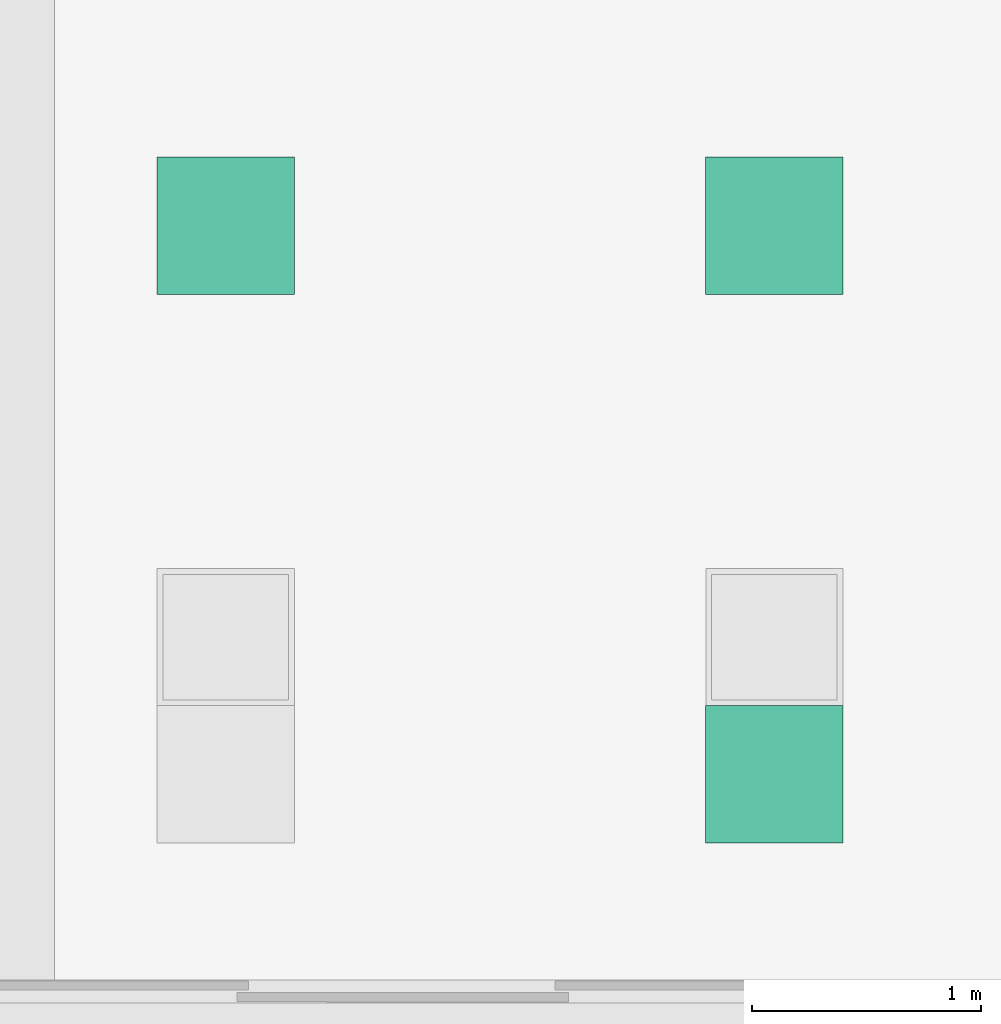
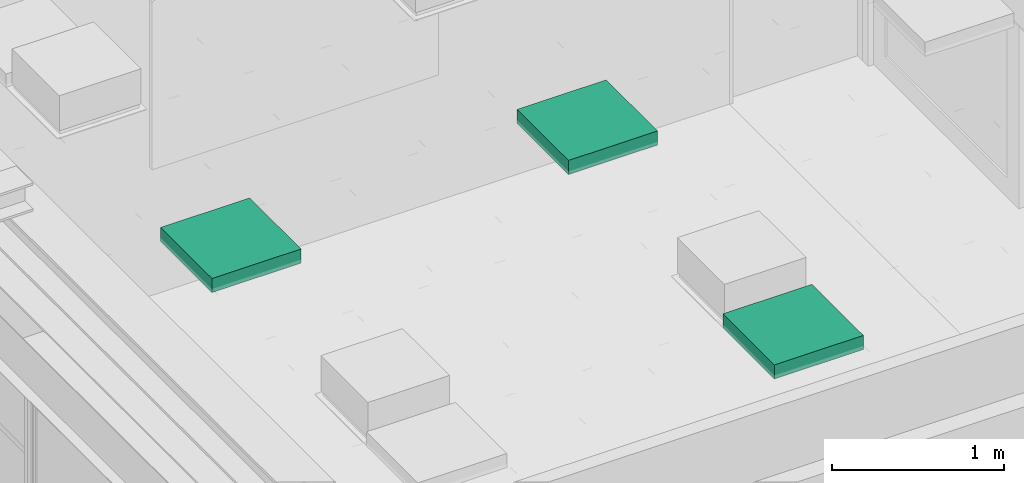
# One storey, part 218 of 347: 3 flow terminals.
"""IFC2X3 building model written with IfcOpenShell, lengths in millimetres."""

from ifc_helpers import new_model, entity, si_unit, converted_unit, derived_unit, money_unit, direction, frame, origin_with_axes, place, context, subcontext, project, spatial, open_shell, faceted_brep, surface_model, source, transform, mapped, type_object, type_shapes, element, save


model = new_model("IFC2X3")

# Units and contexts
model_context = context("Model", 3, precision=0.01, world=origin_with_axes(), true_north=direction((0.0, 1.0)))
plan_context = context("Plan", 3, precision=0.01, world=origin_with_axes(), true_north=direction((0.0, 1.0)))
body_context = subcontext(model_context, "Body", "Model", "MODEL_VIEW")
ifc_project = project(units=[si_unit("LENGTHUNIT", "METRE", prefix="MILLI"), si_unit("AREAUNIT", "SQUARE_METRE"), si_unit("VOLUMEUNIT", "CUBIC_METRE"), converted_unit("PLANEANGLEUNIT", "DEGREE", entity("IfcPlaneAngleMeasure", 0.0174532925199), si_unit("PLANEANGLEUNIT", "RADIAN"), dimensions=[0, 0, 0, 0, 0, 0, 0]), money_unit("EUR"), converted_unit("TIMEUNIT", "Year", entity("IfcTimeMeasure", 31556926.0), si_unit("TIMEUNIT", "SECOND"), dimensions=[0, 0, 1, 0, 0, 0, 0]), si_unit("MASSUNIT", "GRAM", prefix="KILO"), si_unit("THERMODYNAMICTEMPERATUREUNIT", "DEGREE_CELSIUS"), si_unit("LUMINOUSINTENSITYUNIT", "LUMEN"), si_unit("ENERGYUNIT", "JOULE", prefix="MEGA"), derived_unit("THERMALCONDUCTANCEUNIT", [(si_unit("POWERUNIT", "WATT"), 1), (si_unit("LENGTHUNIT", "METRE"), -1), (si_unit("THERMODYNAMICTEMPERATUREUNIT", "KELVIN"), -1)]), derived_unit("SPECIFICHEATCAPACITYUNIT", [(si_unit("ENERGYUNIT", "JOULE"), 1), (si_unit("MASSUNIT", "GRAM", prefix="KILO"), -1), (si_unit("THERMODYNAMICTEMPERATUREUNIT", "KELVIN"), -1)]), derived_unit("MASSDENSITYUNIT", [(si_unit("MASSUNIT", "GRAM", prefix="KILO"), 1), (si_unit("VOLUMEUNIT", "CUBIC_METRE"), -1)])], contexts=[model_context, plan_context])

# Site, building, storey
site_placement = place(None, origin_with_axes())
site = spatial("IfcSite", under=ifc_project, at=site_placement, Name="Site", CompositionType="ELEMENT")
building_placement = place(site_placement, origin_with_axes())
building = spatial("IfcBuilding", under=site, at=building_placement, Name="Naam gebouw", CompositionType="ELEMENT")
storey_placement = place(building_placement, origin_with_axes())
storey = spatial("IfcBuildingStorey", under=building, at=storey_placement, Name="begane grond", CompositionType="ELEMENT", Elevation=0.0)

# Flow terminals
lamp_type = type_object("IfcLampType", Name="TL plafond 25", PredefinedType="NOTDEFINED")
shared_shape = source(origin_with_axes(), body_context, "Body", "SurfaceModel", [
    faceted_brep([(0.0, 0.0, -100.0), (600.0, 0.0, -100.0), (600.0, 0.0, 0.0), (0.0, 0.0, 0.0), (0.0, 600.0, -100.0), (600.0, 600.0, -100.0), (40.0, 40.0, -100.0), (560.0, 40.0, -100.0), (560.0, 560.0, -100.0), (40.0, 560.0, -100.0), (600.0, 600.0, 0.0), (0.0, 600.0, 0.0), (40.0, 40.0, 0.0), (40.0, 560.0, 0.0), (560.0, 560.0, 0.0), (560.0, 40.0, 0.0)], [[[0, 1, 2, 3]], [[0, 4, 5, 1], [6, 7, 8, 9]], [[1, 5, 10, 2]], [[3, 2, 10, 11], [12, 13, 14, 15]], [[4, 0, 3, 11]], [[5, 4, 11, 10]], [[7, 6, 12, 15]], [[8, 7, 15, 14]], [[9, 8, 14, 13]], [[6, 9, 13, 12]]]),
    faceted_brep([(40.0, 40.0, -16.3333333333), (560.0, 40.0, -16.3333333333), (560.0, 40.0, 0.0), (40.0, 40.0, 0.0), (40.0, 560.0, -16.3333333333), (560.0, 560.0, -16.3333333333), (560.0, 560.0, 0.0), (40.0, 560.0, 0.0)], [[[0, 1, 2, 3]], [[0, 4, 5, 1]], [[1, 5, 6, 2]], [[3, 2, 6, 7]], [[4, 0, 3, 7]], [[5, 4, 7, 6]]]),
    surface_model("IfcShellBasedSurfaceModel", [(559.0, 41.0, -100.0), (40.0, 41.0, -100.0), (40.0, 559.0, -100.0), (559.0, 559.0, -100.0)], [open_shell([[[0, 1, 2, 3]]])]),
    faceted_brep([(40.0, 40.0, -100.0), (560.0, 40.0, -100.0), (560.0, 40.0, -60.0), (40.0, 40.0, -60.0), (40.0, 560.0, -100.0), (560.0, 560.0, -100.0), (41.0, 41.0, -100.0), (559.0, 41.0, -100.0), (559.0, 559.0, -100.0), (41.0, 559.0, -100.0), (560.0, 560.0, -60.0), (40.0, 560.0, -60.0), (41.0, 41.0, -60.0), (41.0, 559.0, -60.0), (559.0, 559.0, -60.0), (559.0, 41.0, -60.0)], [[[0, 1, 2, 3]], [[0, 4, 5, 1], [6, 7, 8, 9]], [[1, 5, 10, 2]], [[3, 2, 10, 11], [12, 13, 14, 15]], [[4, 0, 3, 11]], [[5, 4, 11, 10]], [[7, 6, 12, 15]], [[8, 7, 15, 14]], [[9, 8, 14, 13]], [[6, 9, 13, 12]]]),
    faceted_brep([(40.0, 144.0, -48.3333333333), (40.0, 149.740251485, -47.191526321), (560.0, 149.740251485, -47.191526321), (560.0, 144.0, -48.3333333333), (40.0, 138.259748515, -47.191526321), (40.0, 133.393398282, -43.9399350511), (40.0, 130.141807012, -39.0735848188), (40.0, 129.0, -33.3333333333), (40.0, 130.141807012, -27.5930818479), (40.0, 133.393398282, -22.7267316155), (40.0, 138.259748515, -19.4751403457), (40.0, 144.0, -18.3333333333), (40.0, 149.740251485, -19.4751403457), (40.0, 154.606601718, -22.7267316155), (40.0, 157.858192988, -27.5930818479), (40.0, 159.0, -33.3333333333), (40.0, 157.858192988, -39.0735848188), (40.0, 154.606601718, -43.9399350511), (40.0, 144.0, -46.3333333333), (40.0, 148.974884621, -45.343767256), (40.0, 153.192388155, -42.5257214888), (40.0, 156.010433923, -38.3082179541), (40.0, 157.0, -33.3333333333), (40.0, 156.010433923, -28.3584487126), (40.0, 153.192388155, -24.1409451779), (40.0, 148.974884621, -21.3228994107), (40.0, 144.0, -20.3333333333), (40.0, 139.025115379, -21.3228994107), (40.0, 134.807611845, -24.1409451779), (40.0, 131.989566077, -28.3584487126), (40.0, 131.0, -33.3333333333), (40.0, 131.989566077, -38.3082179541), (40.0, 134.807611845, -42.5257214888), (40.0, 139.025115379, -45.343767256), (560.0, 154.606601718, -43.9399350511), (560.0, 157.858192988, -39.0735848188), (560.0, 159.0, -33.3333333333), (560.0, 157.858192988, -27.5930818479), (560.0, 154.606601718, -22.7267316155), (560.0, 149.740251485, -19.4751403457), (560.0, 144.0, -18.3333333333), (560.0, 138.259748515, -19.4751403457), (560.0, 133.393398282, -22.7267316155), (560.0, 130.141807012, -27.5930818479), (560.0, 129.0, -33.3333333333), (560.0, 130.141807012, -39.0735848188), (560.0, 133.393398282, -43.9399350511), (560.0, 138.259748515, -47.191526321), (560.0, 144.0, -46.3333333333), (560.0, 139.025115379, -45.343767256), (560.0, 134.807611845, -42.5257214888), (560.0, 131.989566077, -38.3082179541), (560.0, 131.0, -33.3333333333), (560.0, 131.989566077, -28.3584487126), (560.0, 134.807611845, -24.1409451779), (560.0, 139.025115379, -21.3228994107), (560.0, 144.0, -20.3333333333), (560.0, 148.974884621, -21.3228994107), (560.0, 153.192388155, -24.1409451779), (560.0, 156.010433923, -28.3584487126), (560.0, 157.0, -33.3333333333), (560.0, 156.010433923, -38.3082179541), (560.0, 153.192388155, -42.5257214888), (560.0, 148.974884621, -45.343767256)], [[[0, 1, 2, 3]], [[0, 4, 5, 6, 7, 8, 9, 10, 11, 12, 13, 14, 15, 16, 17, 1], [18, 19, 20, 21, 22, 23, 24, 25, 26, 27, 28, 29, 30, 31, 32, 33]], [[1, 17, 34, 2]], [[3, 2, 34, 35, 36, 37, 38, 39, 40, 41, 42, 43, 44, 45, 46, 47], [48, 49, 50, 51, 52, 53, 54, 55, 56, 57, 58, 59, 60, 61, 62, 63]], [[4, 0, 3, 47]], [[5, 4, 47, 46]], [[6, 5, 46, 45]], [[7, 6, 45, 44]], [[8, 7, 44, 43]], [[9, 8, 43, 42]], [[10, 9, 42, 41]], [[11, 10, 41, 40]], [[12, 11, 40, 39]], [[13, 12, 39, 38]], [[14, 13, 38, 37]], [[15, 14, 37, 36]], [[16, 15, 36, 35]], [[17, 16, 35, 34]], [[19, 18, 48, 63]], [[20, 19, 63, 62]], [[21, 20, 62, 61]], [[22, 21, 61, 60]], [[23, 22, 60, 59]], [[24, 23, 59, 58]], [[25, 24, 58, 57]], [[26, 25, 57, 56]], [[27, 26, 56, 55]], [[28, 27, 55, 54]], [[29, 28, 54, 53]], [[30, 29, 53, 52]], [[31, 30, 52, 51]], [[32, 31, 51, 50]], [[33, 32, 50, 49]], [[18, 33, 49, 48]]]),
    faceted_brep([(40.0, 248.0, -48.3333333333), (40.0, 253.740251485, -47.191526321), (560.0, 253.740251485, -47.191526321), (560.0, 248.0, -48.3333333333), (40.0, 242.259748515, -47.191526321), (40.0, 237.393398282, -43.9399350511), (40.0, 234.141807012, -39.0735848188), (40.0, 233.0, -33.3333333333), (40.0, 234.141807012, -27.5930818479), (40.0, 237.393398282, -22.7267316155), (40.0, 242.259748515, -19.4751403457), (40.0, 248.0, -18.3333333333), (40.0, 253.740251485, -19.4751403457), (40.0, 258.606601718, -22.7267316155), (40.0, 261.858192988, -27.5930818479), (40.0, 263.0, -33.3333333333), (40.0, 261.858192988, -39.0735848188), (40.0, 258.606601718, -43.9399350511), (40.0, 248.0, -46.3333333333), (40.0, 252.974884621, -45.343767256), (40.0, 257.192388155, -42.5257214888), (40.0, 260.010433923, -38.3082179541), (40.0, 261.0, -33.3333333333), (40.0, 260.010433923, -28.3584487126), (40.0, 257.192388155, -24.1409451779), (40.0, 252.974884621, -21.3228994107), (40.0, 248.0, -20.3333333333), (40.0, 243.025115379, -21.3228994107), (40.0, 238.807611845, -24.1409451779), (40.0, 235.989566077, -28.3584487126), (40.0, 235.0, -33.3333333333), (40.0, 235.989566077, -38.3082179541), (40.0, 238.807611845, -42.5257214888), (40.0, 243.025115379, -45.343767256), (560.0, 258.606601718, -43.9399350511), (560.0, 261.858192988, -39.0735848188), (560.0, 263.0, -33.3333333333), (560.0, 261.858192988, -27.5930818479), (560.0, 258.606601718, -22.7267316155), (560.0, 253.740251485, -19.4751403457), (560.0, 248.0, -18.3333333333), (560.0, 242.259748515, -19.4751403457), (560.0, 237.393398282, -22.7267316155), (560.0, 234.141807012, -27.5930818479), (560.0, 233.0, -33.3333333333), (560.0, 234.141807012, -39.0735848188), (560.0, 237.393398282, -43.9399350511), (560.0, 242.259748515, -47.191526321), (560.0, 248.0, -46.3333333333), (560.0, 243.025115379, -45.343767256), (560.0, 238.807611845, -42.5257214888), (560.0, 235.989566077, -38.3082179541), (560.0, 235.0, -33.3333333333), (560.0, 235.989566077, -28.3584487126), (560.0, 238.807611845, -24.1409451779), (560.0, 243.025115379, -21.3228994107), (560.0, 248.0, -20.3333333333), (560.0, 252.974884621, -21.3228994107), (560.0, 257.192388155, -24.1409451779), (560.0, 260.010433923, -28.3584487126), (560.0, 261.0, -33.3333333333), (560.0, 260.010433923, -38.3082179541), (560.0, 257.192388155, -42.5257214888), (560.0, 252.974884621, -45.343767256)], [[[0, 1, 2, 3]], [[0, 4, 5, 6, 7, 8, 9, 10, 11, 12, 13, 14, 15, 16, 17, 1], [18, 19, 20, 21, 22, 23, 24, 25, 26, 27, 28, 29, 30, 31, 32, 33]], [[1, 17, 34, 2]], [[3, 2, 34, 35, 36, 37, 38, 39, 40, 41, 42, 43, 44, 45, 46, 47], [48, 49, 50, 51, 52, 53, 54, 55, 56, 57, 58, 59, 60, 61, 62, 63]], [[4, 0, 3, 47]], [[5, 4, 47, 46]], [[6, 5, 46, 45]], [[7, 6, 45, 44]], [[8, 7, 44, 43]], [[9, 8, 43, 42]], [[10, 9, 42, 41]], [[11, 10, 41, 40]], [[12, 11, 40, 39]], [[13, 12, 39, 38]], [[14, 13, 38, 37]], [[15, 14, 37, 36]], [[16, 15, 36, 35]], [[17, 16, 35, 34]], [[19, 18, 48, 63]], [[20, 19, 63, 62]], [[21, 20, 62, 61]], [[22, 21, 61, 60]], [[23, 22, 60, 59]], [[24, 23, 59, 58]], [[25, 24, 58, 57]], [[26, 25, 57, 56]], [[27, 26, 56, 55]], [[28, 27, 55, 54]], [[29, 28, 54, 53]], [[30, 29, 53, 52]], [[31, 30, 52, 51]], [[32, 31, 51, 50]], [[33, 32, 50, 49]], [[18, 33, 49, 48]]]),
    faceted_brep([(40.0, 352.0, -48.3333333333), (40.0, 357.740251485, -47.191526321), (560.0, 357.740251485, -47.191526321), (560.0, 352.0, -48.3333333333), (40.0, 346.259748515, -47.191526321), (40.0, 341.393398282, -43.9399350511), (40.0, 338.141807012, -39.0735848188), (40.0, 337.0, -33.3333333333), (40.0, 338.141807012, -27.5930818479), (40.0, 341.393398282, -22.7267316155), (40.0, 346.259748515, -19.4751403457), (40.0, 352.0, -18.3333333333), (40.0, 357.740251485, -19.4751403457), (40.0, 362.606601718, -22.7267316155), (40.0, 365.858192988, -27.5930818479), (40.0, 367.0, -33.3333333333), (40.0, 365.858192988, -39.0735848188), (40.0, 362.606601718, -43.9399350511), (40.0, 352.0, -46.3333333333), (40.0, 356.974884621, -45.343767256), (40.0, 361.192388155, -42.5257214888), (40.0, 364.010433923, -38.3082179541), (40.0, 365.0, -33.3333333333), (40.0, 364.010433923, -28.3584487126), (40.0, 361.192388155, -24.1409451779), (40.0, 356.974884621, -21.3228994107), (40.0, 352.0, -20.3333333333), (40.0, 347.025115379, -21.3228994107), (40.0, 342.807611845, -24.1409451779), (40.0, 339.989566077, -28.3584487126), (40.0, 339.0, -33.3333333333), (40.0, 339.989566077, -38.3082179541), (40.0, 342.807611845, -42.5257214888), (40.0, 347.025115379, -45.343767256), (560.0, 362.606601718, -43.9399350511), (560.0, 365.858192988, -39.0735848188), (560.0, 367.0, -33.3333333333), (560.0, 365.858192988, -27.5930818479), (560.0, 362.606601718, -22.7267316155), (560.0, 357.740251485, -19.4751403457), (560.0, 352.0, -18.3333333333), (560.0, 346.259748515, -19.4751403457), (560.0, 341.393398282, -22.7267316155), (560.0, 338.141807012, -27.5930818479), (560.0, 337.0, -33.3333333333), (560.0, 338.141807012, -39.0735848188), (560.0, 341.393398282, -43.9399350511), (560.0, 346.259748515, -47.191526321), (560.0, 352.0, -46.3333333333), (560.0, 347.025115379, -45.343767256), (560.0, 342.807611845, -42.5257214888), (560.0, 339.989566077, -38.3082179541), (560.0, 339.0, -33.3333333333), (560.0, 339.989566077, -28.3584487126), (560.0, 342.807611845, -24.1409451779), (560.0, 347.025115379, -21.3228994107), (560.0, 352.0, -20.3333333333), (560.0, 356.974884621, -21.3228994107), (560.0, 361.192388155, -24.1409451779), (560.0, 364.010433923, -28.3584487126), (560.0, 365.0, -33.3333333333), (560.0, 364.010433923, -38.3082179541), (560.0, 361.192388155, -42.5257214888), (560.0, 356.974884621, -45.343767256)], [[[0, 1, 2, 3]], [[0, 4, 5, 6, 7, 8, 9, 10, 11, 12, 13, 14, 15, 16, 17, 1], [18, 19, 20, 21, 22, 23, 24, 25, 26, 27, 28, 29, 30, 31, 32, 33]], [[1, 17, 34, 2]], [[3, 2, 34, 35, 36, 37, 38, 39, 40, 41, 42, 43, 44, 45, 46, 47], [48, 49, 50, 51, 52, 53, 54, 55, 56, 57, 58, 59, 60, 61, 62, 63]], [[4, 0, 3, 47]], [[5, 4, 47, 46]], [[6, 5, 46, 45]], [[7, 6, 45, 44]], [[8, 7, 44, 43]], [[9, 8, 43, 42]], [[10, 9, 42, 41]], [[11, 10, 41, 40]], [[12, 11, 40, 39]], [[13, 12, 39, 38]], [[14, 13, 38, 37]], [[15, 14, 37, 36]], [[16, 15, 36, 35]], [[17, 16, 35, 34]], [[19, 18, 48, 63]], [[20, 19, 63, 62]], [[21, 20, 62, 61]], [[22, 21, 61, 60]], [[23, 22, 60, 59]], [[24, 23, 59, 58]], [[25, 24, 58, 57]], [[26, 25, 57, 56]], [[27, 26, 56, 55]], [[28, 27, 55, 54]], [[29, 28, 54, 53]], [[30, 29, 53, 52]], [[31, 30, 52, 51]], [[32, 31, 51, 50]], [[33, 32, 50, 49]], [[18, 33, 49, 48]]]),
    faceted_brep([(40.0, 456.0, -48.3333333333), (40.0, 461.740251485, -47.191526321), (560.0, 461.740251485, -47.191526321), (560.0, 456.0, -48.3333333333), (40.0, 450.259748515, -47.191526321), (40.0, 445.393398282, -43.9399350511), (40.0, 442.141807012, -39.0735848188), (40.0, 441.0, -33.3333333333), (40.0, 442.141807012, -27.5930818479), (40.0, 445.393398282, -22.7267316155), (40.0, 450.259748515, -19.4751403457), (40.0, 456.0, -18.3333333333), (40.0, 461.740251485, -19.4751403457), (40.0, 466.606601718, -22.7267316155), (40.0, 469.858192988, -27.5930818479), (40.0, 471.0, -33.3333333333), (40.0, 469.858192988, -39.0735848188), (40.0, 466.606601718, -43.9399350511), (40.0, 456.0, -46.3333333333), (40.0, 460.974884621, -45.343767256), (40.0, 465.192388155, -42.5257214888), (40.0, 468.010433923, -38.3082179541), (40.0, 469.0, -33.3333333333), (40.0, 468.010433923, -28.3584487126), (40.0, 465.192388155, -24.1409451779), (40.0, 460.974884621, -21.3228994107), (40.0, 456.0, -20.3333333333), (40.0, 451.025115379, -21.3228994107), (40.0, 446.807611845, -24.1409451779), (40.0, 443.989566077, -28.3584487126), (40.0, 443.0, -33.3333333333), (40.0, 443.989566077, -38.3082179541), (40.0, 446.807611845, -42.5257214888), (40.0, 451.025115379, -45.343767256), (560.0, 466.606601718, -43.9399350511), (560.0, 469.858192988, -39.0735848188), (560.0, 471.0, -33.3333333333), (560.0, 469.858192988, -27.5930818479), (560.0, 466.606601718, -22.7267316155), (560.0, 461.740251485, -19.4751403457), (560.0, 456.0, -18.3333333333), (560.0, 450.259748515, -19.4751403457), (560.0, 445.393398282, -22.7267316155), (560.0, 442.141807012, -27.5930818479), (560.0, 441.0, -33.3333333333), (560.0, 442.141807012, -39.0735848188), (560.0, 445.393398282, -43.9399350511), (560.0, 450.259748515, -47.191526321), (560.0, 456.0, -46.3333333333), (560.0, 451.025115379, -45.343767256), (560.0, 446.807611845, -42.5257214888), (560.0, 443.989566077, -38.3082179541), (560.0, 443.0, -33.3333333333), (560.0, 443.989566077, -28.3584487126), (560.0, 446.807611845, -24.1409451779), (560.0, 451.025115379, -21.3228994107), (560.0, 456.0, -20.3333333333), (560.0, 460.974884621, -21.3228994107), (560.0, 465.192388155, -24.1409451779), (560.0, 468.010433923, -28.3584487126), (560.0, 469.0, -33.3333333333), (560.0, 468.010433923, -38.3082179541), (560.0, 465.192388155, -42.5257214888), (560.0, 460.974884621, -45.343767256)], [[[0, 1, 2, 3]], [[0, 4, 5, 6, 7, 8, 9, 10, 11, 12, 13, 14, 15, 16, 17, 1], [18, 19, 20, 21, 22, 23, 24, 25, 26, 27, 28, 29, 30, 31, 32, 33]], [[1, 17, 34, 2]], [[3, 2, 34, 35, 36, 37, 38, 39, 40, 41, 42, 43, 44, 45, 46, 47], [48, 49, 50, 51, 52, 53, 54, 55, 56, 57, 58, 59, 60, 61, 62, 63]], [[4, 0, 3, 47]], [[5, 4, 47, 46]], [[6, 5, 46, 45]], [[7, 6, 45, 44]], [[8, 7, 44, 43]], [[9, 8, 43, 42]], [[10, 9, 42, 41]], [[11, 10, 41, 40]], [[12, 11, 40, 39]], [[13, 12, 39, 38]], [[14, 13, 38, 37]], [[15, 14, 37, 36]], [[16, 15, 36, 35]], [[17, 16, 35, 34]], [[19, 18, 48, 63]], [[20, 19, 63, 62]], [[21, 20, 62, 61]], [[22, 21, 61, 60]], [[23, 22, 60, 59]], [[24, 23, 59, 58]], [[25, 24, 58, 57]], [[26, 25, 57, 56]], [[27, 26, 56, 55]], [[28, 27, 55, 54]], [[29, 28, 54, 53]], [[30, 29, 53, 52]], [[31, 30, 52, 51]], [[32, 31, 51, 50]], [[33, 32, 50, 49]], [[18, 33, 49, 48]]]),
])
type_shapes(lamp_type, [shared_shape])
for number, where, z_axis, x_axis, name in (
    (1, (25325.0, 23812.5, 3295.0), (0.0, 0.0, 1.0), (1.0, 0.0, 0.0), "63_Lamp-x"),
    (2, (27725.0, 21412.5, 3295.0), (0.0, 0.0, 1.0), (1.0, 0.0, 0.0), "63_Lamp-x"),
    (3, (27725.0, 23812.5, 3295.0), (0.0, 0.0, 1.0), (1.0, 0.0, 0.0), "63_Lamp-x"),
):
    element("IfcFlowTerminal", number, at=place(storey_placement, frame(where, z_axis=z_axis, x_axis=x_axis)), inside=storey, type_object=lamp_type, Name=name, ObjectType="Lamp", context=body_context, shape_type="MappedRepresentation", body=[
        mapped(shared_shape, transform((0.0, 0.0, 0.0))),
    ])

save(model, "model.ifc")
